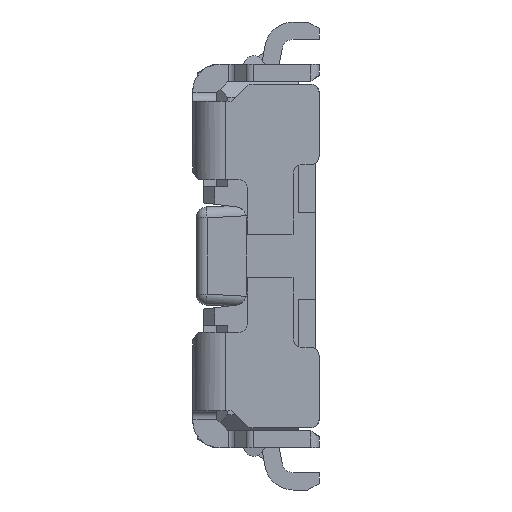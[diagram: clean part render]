
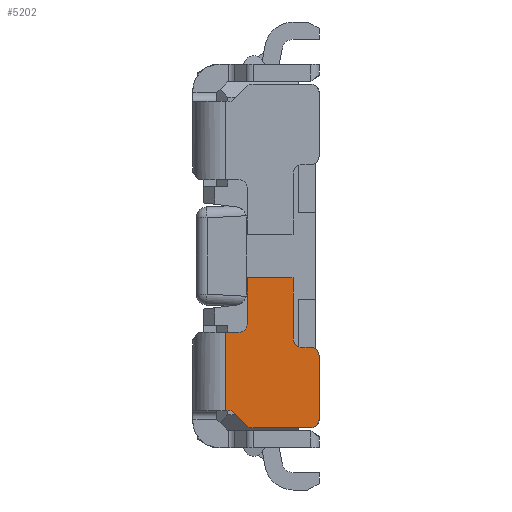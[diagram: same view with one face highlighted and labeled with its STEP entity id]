
A CAD part, left-side view. The second image highlights one B-rep face of the part: STEP entity #5202.
In plain terms, the highlighted planar face has unit normal (-1, 0, 0).
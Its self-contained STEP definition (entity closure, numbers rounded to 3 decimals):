
#219 = CARTESIAN_POINT ( 'NONE',  ( -1.75, 0.332, -0.778 ) ) ;
#519 = VERTEX_POINT ( 'NONE', #9770 ) ;
#611 = DIRECTION ( 'NONE',  ( 0., -1., 0. ) ) ;
#752 = EDGE_CURVE ( 'NONE', #9401, #10482, #9673, .T. ) ;
#854 = CARTESIAN_POINT ( 'NONE',  ( -1.75, 0.37, -0.31 ) ) ;
#1024 = VECTOR ( 'NONE', #20201, 1000. ) ;
#1047 = AXIS2_PLACEMENT_3D ( 'NONE', #20685, #17293, #7000 ) ;
#1071 = VECTOR ( 'NONE', #1313, 1000. ) ;
#1313 = DIRECTION ( 'NONE',  ( 0., -1., 0. ) ) ;
#1428 = CARTESIAN_POINT ( 'NONE',  ( -1.75, 0.08, -0.38 ) ) ;
#1500 = DIRECTION ( 'NONE',  ( 1., 0., 0. ) ) ;
#1944 = DIRECTION ( 'NONE',  ( 0., -1., 0. ) ) ;
#2149 = ORIENTED_EDGE ( 'NONE', *, *, #10033, .F. ) ;
#2171 = VECTOR ( 'NONE', #12848, 1000. ) ;
#2554 = DIRECTION ( 'NONE',  ( 1., 0., 0. ) ) ;
#2741 = ORIENTED_EDGE ( 'NONE', *, *, #3255, .T. ) ;
#2982 = EDGE_CURVE ( 'NONE', #9070, #15146, #16745, .T. ) ;
#3222 = DIRECTION ( 'NONE',  ( 0., 0., -1. ) ) ;
#3251 = CARTESIAN_POINT ( 'NONE',  ( -1.75, 0.08, -0.42 ) ) ;
#3255 = EDGE_CURVE ( 'NONE', #16494, #6651, #9723, .T. ) ;
#3423 = ORIENTED_EDGE ( 'NONE', *, *, #7602, .T. ) ;
#3680 = DIRECTION ( 'NONE',  ( 0., 0., -1. ) ) ;
#4007 = CARTESIAN_POINT ( 'NONE',  ( -1.75, 0.37, -0.35 ) ) ;
#4029 = ORIENTED_EDGE ( 'NONE', *, *, #16470, .F. ) ;
#4138 = AXIS2_PLACEMENT_3D ( 'NONE', #16127, #2554, #16282 ) ;
#4483 = DIRECTION ( 'NONE',  ( 0., 0., 1. ) ) ;
#4960 = LINE ( 'NONE', #13308, #21610 ) ;
#5056 = ORIENTED_EDGE ( 'NONE', *, *, #2982, .T. ) ;
#5071 = FACE_OUTER_BOUND ( 'NONE', #16835, .T. ) ;
#5202 = ADVANCED_FACE ( 'NONE', ( #5071 ), #15596, .F. ) ;
#5265 = AXIS2_PLACEMENT_3D ( 'NONE', #14426, #7428, #12468 ) ;
#5406 = AXIS2_PLACEMENT_3D ( 'NONE', #854, #12859, #14579 ) ;
#5807 = EDGE_CURVE ( 'NONE', #15146, #19570, #21459, .T. ) ;
#5926 = VECTOR ( 'NONE', #14827, 1000. ) ;
#6012 = EDGE_CURVE ( 'NONE', #16526, #519, #8779, .T. ) ;
#6176 = CARTESIAN_POINT ( 'NONE',  ( -1.75, 0.43, -0.35 ) ) ;
#6312 = ORIENTED_EDGE ( 'NONE', *, *, #15252, .T. ) ;
#6374 = LINE ( 'NONE', #20886, #20895 ) ;
#6401 = CARTESIAN_POINT ( 'NONE',  ( -1.75, 0.4, -0.79 ) ) ;
#6406 = CARTESIAN_POINT ( 'NONE',  ( -1.75, 0., -0.75 ) ) ;
#6651 = VERTEX_POINT ( 'NONE', #4007 ) ;
#6976 = CARTESIAN_POINT ( 'NONE',  ( -1.75, 0.58, -0.72 ) ) ;
#7000 = DIRECTION ( 'NONE',  ( 0., 0., -1. ) ) ;
#7198 = DIRECTION ( 'NONE',  ( 0., -0.707, -0.707 ) ) ;
#7428 = DIRECTION ( 'NONE',  ( -1., 0., 0. ) ) ;
#7602 = EDGE_CURVE ( 'NONE', #19570, #14672, #19732, .T. ) ;
#7987 = CARTESIAN_POINT ( 'NONE',  ( -1.75, 0.38, -0.35 ) ) ;
#8779 = LINE ( 'NONE', #13879, #15479 ) ;
#8925 = CARTESIAN_POINT ( 'NONE',  ( -1.75, 0.303, -0.79 ) ) ;
#9070 = VERTEX_POINT ( 'NONE', #219 ) ;
#9388 = CARTESIAN_POINT ( 'NONE',  ( -1.75, 0.43, -0.6 ) ) ;
#9401 = VERTEX_POINT ( 'NONE', #19881 ) ;
#9637 = ORIENTED_EDGE ( 'NONE', *, *, #17564, .T. ) ;
#9673 = LINE ( 'NONE', #14189, #13719 ) ;
#9723 = CIRCLE ( 'NONE', #5406, 0.04 ) ;
#9770 = CARTESIAN_POINT ( 'NONE',  ( -1.75, 0.04, -0.42 ) ) ;
#9998 = EDGE_CURVE ( 'NONE', #10482, #17358, #13139, .T. ) ;
#10033 = EDGE_CURVE ( 'NONE', #19540, #6651, #20420, .T. ) ;
#10482 = VERTEX_POINT ( 'NONE', #12483 ) ;
#10514 = CIRCLE ( 'NONE', #20626, 0.04 ) ;
#10663 = DIRECTION ( 'NONE',  ( 0., 1., 0. ) ) ;
#10731 = CARTESIAN_POINT ( 'NONE',  ( -1.75, 0., -0.71 ) ) ;
#10951 = CARTESIAN_POINT ( 'NONE',  ( -1.75, 0.417, -0.71 ) ) ;
#11088 = DIRECTION ( 'NONE',  ( 0., 0., -1. ) ) ;
#11131 = EDGE_CURVE ( 'NONE', #16526, #17358, #10514, .T. ) ;
#11645 = CARTESIAN_POINT ( 'NONE',  ( -1.75, 0.33, -0.31 ) ) ;
#12301 = ORIENTED_EDGE ( 'NONE', *, *, #18438, .T. ) ;
#12468 = DIRECTION ( 'NONE',  ( 0., 0., -1. ) ) ;
#12483 = CARTESIAN_POINT ( 'NONE',  ( -1.75, 0.12, -0.1 ) ) ;
#12520 = VERTEX_POINT ( 'NONE', #10951 ) ;
#12734 = CARTESIAN_POINT ( 'NONE',  ( -1.75, 0.12, -0.1 ) ) ;
#12842 = LINE ( 'NONE', #10731, #15231 ) ;
#12848 = DIRECTION ( 'NONE',  ( 0., 0., 1. ) ) ;
#12859 = DIRECTION ( 'NONE',  ( 1., 0., 0. ) ) ;
#12904 = CARTESIAN_POINT ( 'NONE',  ( -1.75, 0.04, -0.79 ) ) ;
#12933 = CARTESIAN_POINT ( 'NONE',  ( -1.75, 0.12, -0.38 ) ) ;
#13097 = CARTESIAN_POINT ( 'NONE',  ( -1.75, 0., -0.72 ) ) ;
#13139 = LINE ( 'NONE', #12734, #5926 ) ;
#13308 = CARTESIAN_POINT ( 'NONE',  ( -1.75, 0.33, -0.35 ) ) ;
#13631 = ORIENTED_EDGE ( 'NONE', *, *, #752, .F. ) ;
#13719 = VECTOR ( 'NONE', #611, 1000. ) ;
#13879 = CARTESIAN_POINT ( 'NONE',  ( -1.75, 0., -0.42 ) ) ;
#14025 = EDGE_CURVE ( 'NONE', #12520, #18368, #12842, .T. ) ;
#14189 = CARTESIAN_POINT ( 'NONE',  ( -1.75, 0.58, -0.1 ) ) ;
#14426 = CARTESIAN_POINT ( 'NONE',  ( -1.75, 0.04, -0.46 ) ) ;
#14472 = DIRECTION ( 'NONE',  ( -1., 0., 0. ) ) ;
#14512 = LINE ( 'NONE', #9388, #2171 ) ;
#14579 = DIRECTION ( 'NONE',  ( 0., 0., -1. ) ) ;
#14605 = CARTESIAN_POINT ( 'NONE',  ( -1.75, 0.43, -0.71 ) ) ;
#14672 = VERTEX_POINT ( 'NONE', #6406 ) ;
#14827 = DIRECTION ( 'NONE',  ( 0., 0., -1. ) ) ;
#14862 = ORIENTED_EDGE ( 'NONE', *, *, #14025, .F. ) ;
#15138 = ORIENTED_EDGE ( 'NONE', *, *, #22072, .F. ) ;
#15146 = VERTEX_POINT ( 'NONE', #8925 ) ;
#15147 = DIRECTION ( 'NONE',  ( 1., 0., 0. ) ) ;
#15231 = VECTOR ( 'NONE', #10663, 1000. ) ;
#15252 = EDGE_CURVE ( 'NONE', #12520, #20460, #17334, .T. ) ;
#15479 = VECTOR ( 'NONE', #1944, 1000. ) ;
#15596 = PLANE ( 'NONE',  #21400 ) ;
#15757 = ORIENTED_EDGE ( 'NONE', *, *, #9998, .F. ) ;
#15991 = CARTESIAN_POINT ( 'NONE',  ( -1.75, 0.388, -0.722 ) ) ;
#16127 = CARTESIAN_POINT ( 'NONE',  ( -1.75, 0.417, -0.75 ) ) ;
#16282 = DIRECTION ( 'NONE',  ( 0., 0., -1. ) ) ;
#16470 = EDGE_CURVE ( 'NONE', #16494, #9401, #4960, .T. ) ;
#16494 = VERTEX_POINT ( 'NONE', #11645 ) ;
#16526 = VERTEX_POINT ( 'NONE', #3251 ) ;
#16557 = VECTOR ( 'NONE', #4483, 1000. ) ;
#16745 = CIRCLE ( 'NONE', #1047, 0.04 ) ;
#16835 = EDGE_LOOP ( 'NONE', ( #12301, #20923, #22279, #17044, #15757, #13631, #4029, #2741, #2149, #15138, #14862, #6312, #9637, #5056, #17727, #3423 ) ) ;
#16850 = VERTEX_POINT ( 'NONE', #20320 ) ;
#16914 = DIRECTION ( 'NONE',  ( 0., 0., 1. ) ) ;
#17044 = ORIENTED_EDGE ( 'NONE', *, *, #11131, .T. ) ;
#17293 = DIRECTION ( 'NONE',  ( -1., 0., 0. ) ) ;
#17334 = CIRCLE ( 'NONE', #4138, 0.04 ) ;
#17358 = VERTEX_POINT ( 'NONE', #12933 ) ;
#17375 = AXIS2_PLACEMENT_3D ( 'NONE', #21413, #14472, #11088 ) ;
#17564 = EDGE_CURVE ( 'NONE', #20460, #9070, #6374, .T. ) ;
#17727 = ORIENTED_EDGE ( 'NONE', *, *, #5807, .T. ) ;
#18368 = VERTEX_POINT ( 'NONE', #14605 ) ;
#18438 = EDGE_CURVE ( 'NONE', #14672, #16850, #18690, .T. ) ;
#18690 = LINE ( 'NONE', #13097, #16557 ) ;
#19540 = VERTEX_POINT ( 'NONE', #6176 ) ;
#19570 = VERTEX_POINT ( 'NONE', #12904 ) ;
#19732 = CIRCLE ( 'NONE', #17375, 0.04 ) ;
#19881 = CARTESIAN_POINT ( 'NONE',  ( -1.75, 0.33, -0.1 ) ) ;
#20201 = DIRECTION ( 'NONE',  ( 0., -1., 0. ) ) ;
#20320 = CARTESIAN_POINT ( 'NONE',  ( -1.75, 0., -0.46 ) ) ;
#20420 = LINE ( 'NONE', #7987, #1071 ) ;
#20460 = VERTEX_POINT ( 'NONE', #15991 ) ;
#20626 = AXIS2_PLACEMENT_3D ( 'NONE', #1428, #1500, #3222 ) ;
#20685 = CARTESIAN_POINT ( 'NONE',  ( -1.75, 0.303, -0.75 ) ) ;
#20886 = CARTESIAN_POINT ( 'NONE',  ( -1.75, 0.32, -0.79 ) ) ;
#20895 = VECTOR ( 'NONE', #7198, 1000. ) ;
#20923 = ORIENTED_EDGE ( 'NONE', *, *, #21971, .T. ) ;
#20997 = CIRCLE ( 'NONE', #5265, 0.04 ) ;
#21400 = AXIS2_PLACEMENT_3D ( 'NONE', #6976, #15147, #3680 ) ;
#21413 = CARTESIAN_POINT ( 'NONE',  ( -1.75, 0.04, -0.75 ) ) ;
#21459 = LINE ( 'NONE', #6401, #1024 ) ;
#21610 = VECTOR ( 'NONE', #16914, 1000. ) ;
#21971 = EDGE_CURVE ( 'NONE', #16850, #519, #20997, .T. ) ;
#22072 = EDGE_CURVE ( 'NONE', #18368, #19540, #14512, .T. ) ;
#22279 = ORIENTED_EDGE ( 'NONE', *, *, #6012, .F. ) ;
